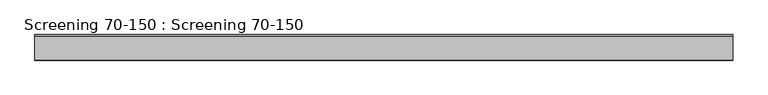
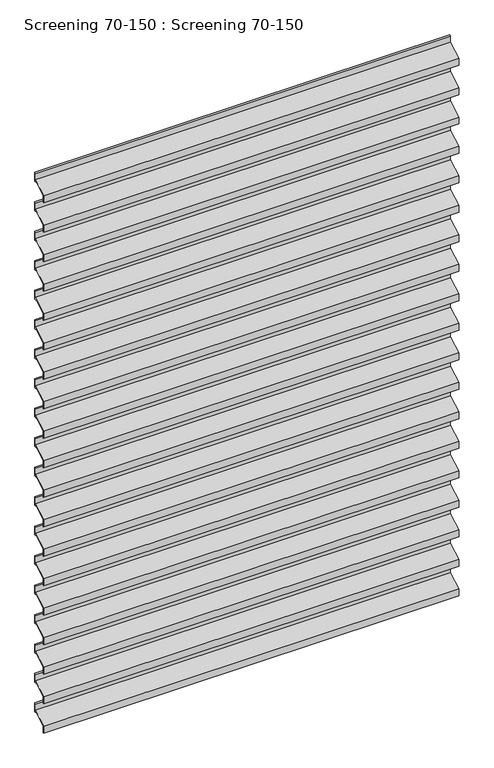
"""IFC4 building model written with IfcOpenShell, lengths in millimetres: plate geometry, Screening 70-150 : Screening 70-150."""

import ifcopenshell
import ifcopenshell.guid

model = None  # the IFC model being written
_history = None  # IfcOwnerHistory: only IFC2X3 demands one
_inside = {}  # id of a spatial element -> (the spatial element, [elements in it])
_under = {}  # id of a project, library or spatial element -> (it, [spatial elements below it])
_declared = {}  # id of a project -> (the project, [libraries it declares])
_typed = {}  # id of a type object -> (the type object, [elements of that type])
_made_of = {}  # id of a material, layer set ... -> (it, [elements and type objects made of it])


def new_model(schema):
    """Start an empty IFC model of exactly this schema.

    Asked for "IFC4X3", IfcOpenShell would pick the latest addendum, in which some entities
    have other attributes; the version numbers below select the first issue.
    IFC2X3 requires an IfcOwnerHistory on every rooted entity: one is made here for all.
    """
    global model, _history
    if schema == "IFC4X3":
        model = ifcopenshell.file(schema_version=(4, 3, 0, 0))
    else:
        model = ifcopenshell.file(schema=schema)
    _inside.clear()
    _under.clear()
    _declared.clear()
    _typed.clear()
    _made_of.clear()
    _history = None
    if model.schema == "IFC2X3":
        org = make("IfcOrganization", Name="unknown")
        user = make(
            "IfcPersonAndOrganization",
            ThePerson=make("IfcPerson", FamilyName="unknown"),
            TheOrganization=org,
        )
        app = make(
            "IfcApplication",
            ApplicationDeveloper=org,
            Version="unknown",
            ApplicationFullName="unknown",
            ApplicationIdentifier="unknown",
        )
        _history = make(
            "IfcOwnerHistory",
            OwningUser=user,
            OwningApplication=app,
            ChangeAction="ADDED",
            CreationDate=0,
        )
    return model


def make(cls, **values):
    """One entity of the class cls with the attributes given. An attribute that is None is left unset."""
    return model.create_entity(
        cls, **{name: value for name, value in values.items() if value is not None}
    )


def rooted(cls, **values):
    """An entity with a GlobalId (a new one), such as an element, a storey or a relation."""
    return make(cls, GlobalId=ifcopenshell.guid.new(), OwnerHistory=_history, **values)


def si_unit(unit_type, name, prefix=None):
    """IfcSIUnit, for example si_unit("LENGTHUNIT", "METRE", prefix="MILLI")."""
    return make("IfcSIUnit", UnitType=unit_type, Prefix=prefix, Name=name)


def assignment(units):
    """IfcUnitAssignment: the units of a project."""
    return None if units is None else make("IfcUnitAssignment", Units=units)


def point(xyz):
    """IfcCartesianPoint."""
    return None if xyz is None else make("IfcCartesianPoint", Coordinates=xyz)


def direction(xyz):
    """IfcDirection."""
    return None if xyz is None else make("IfcDirection", DirectionRatios=xyz)


def frame(location, z_axis=None, x_axis=None):
    """IfcAxis2Placement3D, a coordinate frame: its origin and axes. An axis left out is left unset."""
    return make(
        "IfcAxis2Placement3D",
        Location=point(location),
        Axis=direction(z_axis),
        RefDirection=direction(x_axis),
    )


def frame_2d(location, x_axis=None):
    """IfcAxis2Placement2D, a coordinate frame in the plane: its origin and x axis."""
    return make(
        "IfcAxis2Placement2D", Location=point(location), RefDirection=direction(x_axis)
    )


def origin():
    """The frame at (0, 0, 0) with its axes left unset."""
    return frame((0.0, 0.0, 0.0))


def place(relative_to, where):
    """IfcLocalPlacement: puts the frame where relative to a parent placement (None: the world)."""
    return make(
        "IfcLocalPlacement", PlacementRelTo=relative_to, RelativePlacement=where
    )


def context(
    kind, dimensions, precision=None, world=None, true_north=None, identifier=None
):
    """IfcGeometricRepresentationContext, for example the 3D "Model" context."""
    return make(
        "IfcGeometricRepresentationContext",
        ContextIdentifier=identifier,
        ContextType=kind,
        CoordinateSpaceDimension=dimensions,
        Precision=precision,
        WorldCoordinateSystem=world,
        TrueNorth=true_north,
    )


def project(units=None, contexts=None):
    """IfcProject with its units and contexts."""
    return rooted(
        "IfcProject",
        Name="project",
        RepresentationContexts=contexts,
        UnitsInContext=assignment(units),
    )


def spatial(cls, under=None, at=None, **own):
    """A site, building, storey or space (cls), placed at a placement, below another one or the project."""
    s = rooted(cls, ObjectPlacement=at, **own)
    if under is not None:
        _under.setdefault(under.id(), (under, []))[1].append(s)
    return s


def polyline(points):
    """IfcPolyline through the points."""
    return make("IfcPolyline", Points=[point(p) for p in points])


def circle_curve(where, radius):
    """IfcCircle in the frame where."""
    return make("IfcCircle", Position=where, Radius=radius)


def trimmed(basis, trim1, trim2, sense, master):
    """IfcTrimmedCurve: the piece of a basis curve between two trims."""
    return make(
        "IfcTrimmedCurve",
        BasisCurve=basis,
        Trim1=trim1,
        Trim2=trim2,
        SenseAgreement=sense,
        MasterRepresentation=master,
    )


def segment(curve, same_sense, transition):
    """IfcCompositeCurveSegment."""
    return make(
        "IfcCompositeCurveSegment",
        Transition=transition,
        SameSense=same_sense,
        ParentCurve=curve,
    )


def composite_curve(segments, self_intersect=None):
    """IfcCompositeCurve: segments joined end to end."""
    return make("IfcCompositeCurve", Segments=segments, SelfIntersect=self_intersect)


def outline(outer, holes=None, kind="AREA"):
    """IfcArbitraryClosedProfileDef: a profile drawn as a closed curve; with holes, ...WithVoids."""
    if holes is None:
        return make("IfcArbitraryClosedProfileDef", ProfileType=kind, OuterCurve=outer)
    return make(
        "IfcArbitraryProfileDefWithVoids",
        ProfileType=kind,
        OuterCurve=outer,
        InnerCurves=holes,
    )


def extrude(swept, where, along, depth):
    """IfcExtrudedAreaSolid: the profile swept, set in the frame where, extruded along a direction by depth."""
    return make(
        "IfcExtrudedAreaSolid",
        SweptArea=swept,
        Position=where,
        ExtrudedDirection=direction(along),
        Depth=depth,
    )


def shape(context_of_items, identifier, shape_type, items):
    """IfcShapeRepresentation: the items that make up one representation, for example the "Body"."""
    return make(
        "IfcShapeRepresentation",
        ContextOfItems=context_of_items,
        RepresentationIdentifier=identifier,
        RepresentationType=shape_type,
        Items=items,
    )


def source(mapping_origin, context_of_items, identifier, shape_type, items):
    """IfcRepresentationMap: a shape defined once, which mapped items show again and again."""
    return make(
        "IfcRepresentationMap",
        MappingOrigin=mapping_origin,
        MappedRepresentation=shape(context_of_items, identifier, shape_type, items),
    )


def transform(
    local_origin,
    x_axis=None,
    y_axis=None,
    z_axis=None,
    scale=None,
    scale2=None,
    scale3=None,
    uniform=True,
):
    """IfcCartesianTransformationOperator3D, or its non-uniform kind. x_axis, y_axis, z_axis: its Axis1, 2, 3."""
    if uniform:
        return make(
            "IfcCartesianTransformationOperator3D",
            Axis1=direction(x_axis),
            Axis2=direction(y_axis),
            LocalOrigin=point(local_origin),
            Scale=scale,
            Axis3=direction(z_axis),
        )
    return make(
        "IfcCartesianTransformationOperator3DnonUniform",
        Axis1=direction(x_axis),
        Axis2=direction(y_axis),
        LocalOrigin=point(local_origin),
        Scale=scale,
        Axis3=direction(z_axis),
        Scale2=scale2,
        Scale3=scale3,
    )


def mapped(mapping_source, mapping_target):
    """IfcMappedItem: shows the shape of a source again, moved by a transform."""
    return make(
        "IfcMappedItem", MappingSource=mapping_source, MappingTarget=mapping_target
    )


def made_of(thing, what):
    """Note that an element or type object is made of a material, layer set ...; save() writes the relation."""
    if what is not None:
        _made_of.setdefault(what.id(), (what, []))[1].append(thing)
    return thing


def element(
    cls,
    number,
    at=None,
    inside=None,
    cuts=None,
    type_object=None,
    material=None,
    context=None,
    identifier="Body",
    shape_type=None,
    held_by="IfcProductDefinitionShape",
    body=None,
    shapes=None,
    **own,
):
    """One element of the class cls, such as IfcWall. Its Tag is "e" and its number.

    at: its placement. inside: the storey or other place that contains it. cuts: it is an
    opening in that element (IfcRelVoidsElement). A single representation is given by context,
    identifier, shape_type and body (its items); several are given by shapes. held_by: the class
    of the entity that holds the representations. save() writes the other relations.
    """
    e = rooted(cls, Tag="e%d" % number, ObjectPlacement=at, **own)
    if body is not None:
        shapes = [shape(context, identifier, shape_type, body)]
    if shapes is not None:
        e.Representation = make(held_by, Representations=shapes)
    if inside is not None:
        _inside.setdefault(inside.id(), (inside, []))[1].append(e)
    if cuts is not None:
        rooted(
            "IfcRelVoidsElement", RelatingBuildingElement=cuts, RelatedOpeningElement=e
        )
    if type_object is not None:
        _typed.setdefault(type_object.id(), (type_object, []))[1].append(e)
    return made_of(e, material)


def aggregate(whole, parts):
    """IfcRelAggregates: a whole, such as a stair, and the parts it consists of."""
    return rooted("IfcRelAggregates", RelatingObject=whole, RelatedObjects=parts)


def save(model, path):
    """Write the relations noted so far, then the file.

    IfcRelAggregates (storeys below a building ...), IfcRelContainedInSpatialStructure (elements
    in a storey), IfcRelDefinesByType, IfcRelAssociatesMaterial and IfcRelDeclares: one each for
    every whole, place, type object, material and project.
    """
    for whole, parts in _under.values():
        aggregate(whole, parts)
    for where, things in _inside.values():
        rooted(
            "IfcRelContainedInSpatialStructure",
            RelatedElements=things,
            RelatingStructure=where,
        )
    for kind, things in _typed.values():
        rooted("IfcRelDefinesByType", RelatedObjects=things, RelatingType=kind)
    for what, things in _made_of.values():
        rooted("IfcRelAssociatesMaterial", RelatedObjects=things, RelatingMaterial=what)
    for by, libraries in _declared.values():
        rooted("IfcRelDeclares", RelatingContext=by, RelatedDefinitions=libraries)
    model.write(path)


def screening_70_150_screening_70_150_33caf40f(model_context):
    return source(origin(), model_context, "Body", "SweptSolid", [
        extrude(outline(composite_curve([segment(polyline([(-73.0, 2712.1), (-73.0, 2747.5291809)]), True, "CONTINUOUS"), segment(trimmed(circle_curve(frame_2d((-534.237547, 3626.0902569)), 992.2749816), [point((-73.0, 2747.5291809))], [point((-4.0, 2787.3663555))], True, "CARTESIAN"), True, "CONTINUOUS"), segment(polyline([(-4.0, 2787.3663555), (-4.0, 2818.009614), (0.0, 2821.1725089), (0.0, 2776.6482493), (-17.4871094, 2776.6482493)]), True, "CONTINUOUS"), segment(trimmed(circle_curve(frame_2d((-534.237547, 3626.0902569)), 994.2749816), [point((-17.4871094, 2776.6482493))], [point((-71.0, 2746.3211315))], False, "CARTESIAN"), True, "CONTINUOUS"), segment(polyline([(-71.0, 2746.3211315), (-71.0, 2712.1), (-73.0, 2712.1)]), True, "CONTINUOUS")], self_intersect=False)), frame((-1000.0, 0.0, 0.0), z_axis=(1.0, 0.0, 0.0), x_axis=(0.0, 1.0, 0.0)), (0.0, 0.0, 1.0), 2000.0),
        extrude(outline(composite_curve([segment(polyline([(-73.0, 2562.1), (-73.0, 2597.5291809)]), True, "CONTINUOUS"), segment(trimmed(circle_curve(frame_2d((-534.237547, 3476.0902569)), 992.2749816), [point((-73.0, 2597.5291809))], [point((-4.0, 2637.3663555))], True, "CARTESIAN"), True, "CONTINUOUS"), segment(polyline([(-4.0, 2637.3663555), (-4.0, 2668.009614), (0.0, 2671.1725089), (0.0, 2626.6482493), (-17.4871094, 2626.6482493)]), True, "CONTINUOUS"), segment(trimmed(circle_curve(frame_2d((-534.237547, 3476.0902569)), 994.2749816), [point((-17.4871094, 2626.6482493))], [point((-71.0, 2596.3211315))], False, "CARTESIAN"), True, "CONTINUOUS"), segment(polyline([(-71.0, 2596.3211315), (-71.0, 2562.1), (-73.0, 2562.1)]), True, "CONTINUOUS")], self_intersect=False)), frame((-1000.0, 0.0, 0.0), z_axis=(1.0, 0.0, 0.0), x_axis=(0.0, 1.0, 0.0)), (0.0, 0.0, 1.0), 2000.0),
        extrude(outline(composite_curve([segment(polyline([(-73.0, 2412.1), (-73.0, 2447.5291809)]), True, "CONTINUOUS"), segment(trimmed(circle_curve(frame_2d((-534.237547, 3326.0902569)), 992.2749816), [point((-73.0, 2447.5291809))], [point((-4.0, 2487.3663555))], True, "CARTESIAN"), True, "CONTINUOUS"), segment(polyline([(-4.0, 2487.3663555), (-4.0, 2518.009614), (0.0, 2521.1725089), (0.0, 2476.6482493), (-17.4871094, 2476.6482493)]), True, "CONTINUOUS"), segment(trimmed(circle_curve(frame_2d((-534.237547, 3326.0902569)), 994.2749816), [point((-17.4871094, 2476.6482493))], [point((-71.0, 2446.3211315))], False, "CARTESIAN"), True, "CONTINUOUS"), segment(polyline([(-71.0, 2446.3211315), (-71.0, 2412.1), (-73.0, 2412.1)]), True, "CONTINUOUS")], self_intersect=False)), frame((-1000.0, 0.0, 0.0), z_axis=(1.0, 0.0, 0.0), x_axis=(0.0, 1.0, 0.0)), (0.0, 0.0, 1.0), 2000.0),
        extrude(outline(composite_curve([segment(polyline([(-73.0, 2262.1), (-73.0, 2297.5291809)]), True, "CONTINUOUS"), segment(trimmed(circle_curve(frame_2d((-534.237547, 3176.0902569)), 992.2749816), [point((-73.0, 2297.5291809))], [point((-4.0, 2337.3663555))], True, "CARTESIAN"), True, "CONTINUOUS"), segment(polyline([(-4.0, 2337.3663555), (-4.0, 2368.009614), (0.0, 2371.1725089), (0.0, 2326.6482493), (-17.4871094, 2326.6482493)]), True, "CONTINUOUS"), segment(trimmed(circle_curve(frame_2d((-534.237547, 3176.0902569)), 994.2749816), [point((-17.4871094, 2326.6482493))], [point((-71.0, 2296.3211315))], False, "CARTESIAN"), True, "CONTINUOUS"), segment(polyline([(-71.0, 2296.3211315), (-71.0, 2262.1), (-73.0, 2262.1)]), True, "CONTINUOUS")], self_intersect=False)), frame((-1000.0, 0.0, 0.0), z_axis=(1.0, 0.0, 0.0), x_axis=(0.0, 1.0, 0.0)), (0.0, 0.0, 1.0), 2000.0),
        extrude(outline(composite_curve([segment(polyline([(-73.0, 2112.1), (-73.0, 2147.5291809)]), True, "CONTINUOUS"), segment(trimmed(circle_curve(frame_2d((-534.237547, 3026.0902569)), 992.2749816), [point((-73.0, 2147.5291809))], [point((-4.0, 2187.3663555))], True, "CARTESIAN"), True, "CONTINUOUS"), segment(polyline([(-4.0, 2187.3663555), (-4.0, 2218.009614), (0.0, 2221.1725089), (0.0, 2176.6482493), (-17.4871094, 2176.6482493)]), True, "CONTINUOUS"), segment(trimmed(circle_curve(frame_2d((-534.237547, 3026.0902569)), 994.2749816), [point((-17.4871094, 2176.6482493))], [point((-71.0, 2146.3211315))], False, "CARTESIAN"), True, "CONTINUOUS"), segment(polyline([(-71.0, 2146.3211315), (-71.0, 2112.1), (-73.0, 2112.1)]), True, "CONTINUOUS")], self_intersect=False)), frame((-1000.0, 0.0, 0.0), z_axis=(1.0, 0.0, 0.0), x_axis=(0.0, 1.0, 0.0)), (0.0, 0.0, 1.0), 2000.0),
        extrude(outline(composite_curve([segment(polyline([(-73.0, 1962.1), (-73.0, 1997.5291809)]), True, "CONTINUOUS"), segment(trimmed(circle_curve(frame_2d((-534.237547, 2876.0902569)), 992.2749816), [point((-73.0, 1997.5291809))], [point((-4.0, 2037.3663555))], True, "CARTESIAN"), True, "CONTINUOUS"), segment(polyline([(-4.0, 2037.3663555), (-4.0, 2068.009614), (0.0, 2071.1725089), (0.0, 2026.6482493), (-17.4871094, 2026.6482493)]), True, "CONTINUOUS"), segment(trimmed(circle_curve(frame_2d((-534.237547, 2876.0902569)), 994.2749816), [point((-17.4871094, 2026.6482493))], [point((-71.0, 1996.3211315))], False, "CARTESIAN"), True, "CONTINUOUS"), segment(polyline([(-71.0, 1996.3211315), (-71.0, 1962.1), (-73.0, 1962.1)]), True, "CONTINUOUS")], self_intersect=False)), frame((-1000.0, 0.0, 0.0), z_axis=(1.0, 0.0, 0.0), x_axis=(0.0, 1.0, 0.0)), (0.0, 0.0, 1.0), 2000.0),
        extrude(outline(composite_curve([segment(polyline([(-73.0, 1812.1), (-73.0, 1847.5291809)]), True, "CONTINUOUS"), segment(trimmed(circle_curve(frame_2d((-534.237547, 2726.0902569)), 992.2749816), [point((-73.0, 1847.5291809))], [point((-4.0, 1887.3663555))], True, "CARTESIAN"), True, "CONTINUOUS"), segment(polyline([(-4.0, 1887.3663555), (-4.0, 1918.009614), (0.0, 1921.1725089), (0.0, 1876.6482493), (-17.4871094, 1876.6482493)]), True, "CONTINUOUS"), segment(trimmed(circle_curve(frame_2d((-534.237547, 2726.0902569)), 994.2749816), [point((-17.4871094, 1876.6482493))], [point((-71.0, 1846.3211315))], False, "CARTESIAN"), True, "CONTINUOUS"), segment(polyline([(-71.0, 1846.3211315), (-71.0, 1812.1), (-73.0, 1812.1)]), True, "CONTINUOUS")], self_intersect=False)), frame((-1000.0, 0.0, 0.0), z_axis=(1.0, 0.0, 0.0), x_axis=(0.0, 1.0, 0.0)), (0.0, 0.0, 1.0), 2000.0),
        extrude(outline(composite_curve([segment(polyline([(-73.0, 1662.1), (-73.0, 1697.5291809)]), True, "CONTINUOUS"), segment(trimmed(circle_curve(frame_2d((-534.237547, 2576.0902569)), 992.2749816), [point((-73.0, 1697.5291809))], [point((-4.0, 1737.3663555))], True, "CARTESIAN"), True, "CONTINUOUS"), segment(polyline([(-4.0, 1737.3663555), (-4.0, 1768.009614), (0.0, 1771.1725089), (0.0, 1726.6482493), (-17.4871094, 1726.6482493)]), True, "CONTINUOUS"), segment(trimmed(circle_curve(frame_2d((-534.237547, 2576.0902569)), 994.2749816), [point((-17.4871094, 1726.6482493))], [point((-71.0, 1696.3211315))], False, "CARTESIAN"), True, "CONTINUOUS"), segment(polyline([(-71.0, 1696.3211315), (-71.0, 1662.1), (-73.0, 1662.1)]), True, "CONTINUOUS")], self_intersect=False)), frame((-1000.0, 0.0, 0.0), z_axis=(1.0, 0.0, 0.0), x_axis=(0.0, 1.0, 0.0)), (0.0, 0.0, 1.0), 2000.0),
        extrude(outline(composite_curve([segment(polyline([(-73.0, 1512.1), (-73.0, 1547.5291809)]), True, "CONTINUOUS"), segment(trimmed(circle_curve(frame_2d((-534.237547, 2426.0902569)), 992.2749816), [point((-73.0, 1547.5291809))], [point((-4.0, 1587.3663555))], True, "CARTESIAN"), True, "CONTINUOUS"), segment(polyline([(-4.0, 1587.3663555), (-4.0, 1618.009614), (0.0, 1621.1725089), (0.0, 1576.6482493), (-17.4871094, 1576.6482493)]), True, "CONTINUOUS"), segment(trimmed(circle_curve(frame_2d((-534.237547, 2426.0902569)), 994.2749816), [point((-17.4871094, 1576.6482493))], [point((-71.0, 1546.3211315))], False, "CARTESIAN"), True, "CONTINUOUS"), segment(polyline([(-71.0, 1546.3211315), (-71.0, 1512.1), (-73.0, 1512.1)]), True, "CONTINUOUS")], self_intersect=False)), frame((-1000.0, 0.0, 0.0), z_axis=(1.0, 0.0, 0.0), x_axis=(0.0, 1.0, 0.0)), (0.0, 0.0, 1.0), 2000.0),
        extrude(outline(composite_curve([segment(polyline([(-73.0, 1362.1), (-73.0, 1397.5291809)]), True, "CONTINUOUS"), segment(trimmed(circle_curve(frame_2d((-534.237547, 2276.0902569)), 992.2749816), [point((-73.0, 1397.5291809))], [point((-4.0, 1437.3663555))], True, "CARTESIAN"), True, "CONTINUOUS"), segment(polyline([(-4.0, 1437.3663555), (-4.0, 1468.009614), (0.0, 1471.1725089), (0.0, 1426.6482493), (-17.4871094, 1426.6482493)]), True, "CONTINUOUS"), segment(trimmed(circle_curve(frame_2d((-534.237547, 2276.0902569)), 994.2749816), [point((-17.4871094, 1426.6482493))], [point((-71.0, 1396.3211315))], False, "CARTESIAN"), True, "CONTINUOUS"), segment(polyline([(-71.0, 1396.3211315), (-71.0, 1362.1), (-73.0, 1362.1)]), True, "CONTINUOUS")], self_intersect=False)), frame((-1000.0, 0.0, 0.0), z_axis=(1.0, 0.0, 0.0), x_axis=(0.0, 1.0, 0.0)), (0.0, 0.0, 1.0), 2000.0),
        extrude(outline(composite_curve([segment(polyline([(-73.0, 1212.1), (-73.0, 1247.5291809)]), True, "CONTINUOUS"), segment(trimmed(circle_curve(frame_2d((-534.237547, 2126.0902569)), 992.2749816), [point((-73.0, 1247.5291809))], [point((-4.0, 1287.3663555))], True, "CARTESIAN"), True, "CONTINUOUS"), segment(polyline([(-4.0, 1287.3663555), (-4.0, 1318.009614), (0.0, 1321.1725089), (0.0, 1276.6482493), (-17.4871094, 1276.6482493)]), True, "CONTINUOUS"), segment(trimmed(circle_curve(frame_2d((-534.237547, 2126.0902569)), 994.2749816), [point((-17.4871094, 1276.6482493))], [point((-71.0, 1246.3211315))], False, "CARTESIAN"), True, "CONTINUOUS"), segment(polyline([(-71.0, 1246.3211315), (-71.0, 1212.1), (-73.0, 1212.1)]), True, "CONTINUOUS")], self_intersect=False)), frame((-1000.0, 0.0, 0.0), z_axis=(1.0, 0.0, 0.0), x_axis=(0.0, 1.0, 0.0)), (0.0, 0.0, 1.0), 2000.0),
        extrude(outline(composite_curve([segment(polyline([(-73.0, 1062.1), (-73.0, 1097.5291809)]), True, "CONTINUOUS"), segment(trimmed(circle_curve(frame_2d((-534.237547, 1976.0902569)), 992.2749816), [point((-73.0, 1097.5291809))], [point((-4.0, 1137.3663555))], True, "CARTESIAN"), True, "CONTINUOUS"), segment(polyline([(-4.0, 1137.3663555), (-4.0, 1168.009614), (0.0, 1171.1725089), (0.0, 1126.6482493), (-17.4871094, 1126.6482493)]), True, "CONTINUOUS"), segment(trimmed(circle_curve(frame_2d((-534.237547, 1976.0902569)), 994.2749816), [point((-17.4871094, 1126.6482493))], [point((-71.0, 1096.3211315))], False, "CARTESIAN"), True, "CONTINUOUS"), segment(polyline([(-71.0, 1096.3211315), (-71.0, 1062.1), (-73.0, 1062.1)]), True, "CONTINUOUS")], self_intersect=False)), frame((-1000.0, 0.0, 0.0), z_axis=(1.0, 0.0, 0.0), x_axis=(0.0, 1.0, 0.0)), (0.0, 0.0, 1.0), 2000.0),
        extrude(outline(composite_curve([segment(polyline([(-73.0, 912.1), (-73.0, 947.5291809)]), True, "CONTINUOUS"), segment(trimmed(circle_curve(frame_2d((-534.237547, 1826.0902569)), 992.2749816), [point((-73.0, 947.5291809))], [point((-4.0, 987.3663555))], True, "CARTESIAN"), True, "CONTINUOUS"), segment(polyline([(-4.0, 987.3663555), (-4.0, 1018.009614), (0.0, 1021.1725089), (0.0, 976.6482493), (-17.4871094, 976.6482493)]), True, "CONTINUOUS"), segment(trimmed(circle_curve(frame_2d((-534.237547, 1826.0902569)), 994.2749816), [point((-17.4871094, 976.6482493))], [point((-71.0, 946.3211315))], False, "CARTESIAN"), True, "CONTINUOUS"), segment(polyline([(-71.0, 946.3211315), (-71.0, 912.1), (-73.0, 912.1)]), True, "CONTINUOUS")], self_intersect=False)), frame((-1000.0, 0.0, 0.0), z_axis=(1.0, 0.0, 0.0), x_axis=(0.0, 1.0, 0.0)), (0.0, 0.0, 1.0), 2000.0),
        extrude(outline(composite_curve([segment(polyline([(-73.0, 762.1), (-73.0, 797.5291809)]), True, "CONTINUOUS"), segment(trimmed(circle_curve(frame_2d((-534.237547, 1676.0902569)), 992.2749816), [point((-73.0, 797.5291809))], [point((-4.0, 837.3663555))], True, "CARTESIAN"), True, "CONTINUOUS"), segment(polyline([(-4.0, 837.3663555), (-4.0, 868.009614), (0.0, 871.1725089), (0.0, 826.6482493), (-17.4871094, 826.6482493)]), True, "CONTINUOUS"), segment(trimmed(circle_curve(frame_2d((-534.237547, 1676.0902569)), 994.2749816), [point((-17.4871094, 826.6482493))], [point((-71.0, 796.3211315))], False, "CARTESIAN"), True, "CONTINUOUS"), segment(polyline([(-71.0, 796.3211315), (-71.0, 762.1), (-73.0, 762.1)]), True, "CONTINUOUS")], self_intersect=False)), frame((-1000.0, 0.0, 0.0), z_axis=(1.0, 0.0, 0.0), x_axis=(0.0, 1.0, 0.0)), (0.0, 0.0, 1.0), 2000.0),
        extrude(outline(composite_curve([segment(polyline([(-73.0, 612.1), (-73.0, 647.5291809)]), True, "CONTINUOUS"), segment(trimmed(circle_curve(frame_2d((-534.237547, 1526.0902569)), 992.2749816), [point((-73.0, 647.5291809))], [point((-4.0, 687.3663555))], True, "CARTESIAN"), True, "CONTINUOUS"), segment(polyline([(-4.0, 687.3663555), (-4.0, 718.009614), (0.0, 721.1725089), (0.0, 676.6482493), (-17.4871094, 676.6482493)]), True, "CONTINUOUS"), segment(trimmed(circle_curve(frame_2d((-534.237547, 1526.0902569)), 994.2749816), [point((-17.4871094, 676.6482493))], [point((-71.0, 646.3211315))], False, "CARTESIAN"), True, "CONTINUOUS"), segment(polyline([(-71.0, 646.3211315), (-71.0, 612.1), (-73.0, 612.1)]), True, "CONTINUOUS")], self_intersect=False)), frame((-1000.0, 0.0, 0.0), z_axis=(1.0, 0.0, 0.0), x_axis=(0.0, 1.0, 0.0)), (0.0, 0.0, 1.0), 2000.0),
        extrude(outline(composite_curve([segment(polyline([(-73.0, 462.1), (-73.0, 497.5291809)]), True, "CONTINUOUS"), segment(trimmed(circle_curve(frame_2d((-534.237547, 1376.0902569)), 992.2749816), [point((-73.0, 497.5291809))], [point((-4.0, 537.3663555))], True, "CARTESIAN"), True, "CONTINUOUS"), segment(polyline([(-4.0, 537.3663555), (-4.0, 568.009614), (0.0, 571.1725089), (0.0, 526.6482493), (-17.4871094, 526.6482493)]), True, "CONTINUOUS"), segment(trimmed(circle_curve(frame_2d((-534.237547, 1376.0902569)), 994.2749816), [point((-17.4871094, 526.6482493))], [point((-71.0, 496.3211315))], False, "CARTESIAN"), True, "CONTINUOUS"), segment(polyline([(-71.0, 496.3211315), (-71.0, 462.1), (-73.0, 462.1)]), True, "CONTINUOUS")], self_intersect=False)), frame((-1000.0, 0.0, 0.0), z_axis=(1.0, 0.0, 0.0), x_axis=(0.0, 1.0, 0.0)), (0.0, 0.0, 1.0), 2000.0),
        extrude(outline(composite_curve([segment(polyline([(-73.0, 312.1), (-73.0, 347.5291809)]), True, "CONTINUOUS"), segment(trimmed(circle_curve(frame_2d((-534.237547, 1226.0902569)), 992.2749816), [point((-73.0, 347.5291809))], [point((-4.0, 387.3663555))], True, "CARTESIAN"), True, "CONTINUOUS"), segment(polyline([(-4.0, 387.3663555), (-4.0, 418.009614), (0.0, 421.1725089), (0.0, 376.6482493), (-17.4871094, 376.6482493)]), True, "CONTINUOUS"), segment(trimmed(circle_curve(frame_2d((-534.237547, 1226.0902569)), 994.2749816), [point((-17.4871094, 376.6482493))], [point((-71.0, 346.3211315))], False, "CARTESIAN"), True, "CONTINUOUS"), segment(polyline([(-71.0, 346.3211315), (-71.0, 312.1), (-73.0, 312.1)]), True, "CONTINUOUS")], self_intersect=False)), frame((-1000.0, 0.0, 0.0), z_axis=(1.0, 0.0, 0.0), x_axis=(0.0, 1.0, 0.0)), (0.0, 0.0, 1.0), 2000.0),
        extrude(outline(composite_curve([segment(polyline([(-73.0, 162.1), (-73.0, 197.5291809)]), True, "CONTINUOUS"), segment(trimmed(circle_curve(frame_2d((-534.237547, 1076.0902569)), 992.2749816), [point((-73.0, 197.5291809))], [point((-4.0, 237.3663555))], True, "CARTESIAN"), True, "CONTINUOUS"), segment(polyline([(-4.0, 237.3663555), (-4.0, 268.009614), (0.0, 271.1725089), (0.0, 226.6482493), (-17.4871094, 226.6482493)]), True, "CONTINUOUS"), segment(trimmed(circle_curve(frame_2d((-534.237547, 1076.0902569)), 994.2749816), [point((-17.4871094, 226.6482493))], [point((-71.0, 196.3211315))], False, "CARTESIAN"), True, "CONTINUOUS"), segment(polyline([(-71.0, 196.3211315), (-71.0, 162.1), (-73.0, 162.1)]), True, "CONTINUOUS")], self_intersect=False)), frame((-1000.0, 0.0, 0.0), z_axis=(1.0, 0.0, 0.0), x_axis=(0.0, 1.0, 0.0)), (0.0, 0.0, 1.0), 2000.0),
        extrude(outline(composite_curve([segment(polyline([(-73.0, 12.1), (-73.0, 47.5291809)]), True, "CONTINUOUS"), segment(trimmed(circle_curve(frame_2d((-534.237547, 926.0902569)), 992.2749816), [point((-73.0, 47.5291809))], [point((-4.0, 87.3663555))], True, "CARTESIAN"), True, "CONTINUOUS"), segment(polyline([(-4.0, 87.3663555), (-4.0, 118.009614), (0.0, 121.1725089), (0.0, 76.6482493), (-17.4871094, 76.6482493)]), True, "CONTINUOUS"), segment(trimmed(circle_curve(frame_2d((-534.237547, 926.0902569)), 994.2749816), [point((-17.4871094, 76.6482493))], [point((-71.0, 46.3211315))], False, "CARTESIAN"), True, "CONTINUOUS"), segment(polyline([(-71.0, 46.3211315), (-71.0, 12.1), (-73.0, 12.1)]), True, "CONTINUOUS")], self_intersect=False)), frame((-1000.0, 0.0, 0.0), z_axis=(1.0, 0.0, 0.0), x_axis=(0.0, 1.0, 0.0)), (0.0, 0.0, 1.0), 2000.0),
    ])


if __name__ == "__main__":
    model = new_model("IFC4")
    model_context = context("Model", 3, world=origin())
    ifc_project = project(units=[si_unit("LENGTHUNIT", "METRE", prefix="MILLI")], contexts=[model_context])
    site = spatial("IfcSite", under=ifc_project)
    building = spatial("IfcBuilding", under=site)
    placement = place(None, origin())
    screening_70_150_screening_70_150_shape = screening_70_150_screening_70_150_33caf40f(model_context)
    element("IfcPlate", 1, ObjectType="Screening 70-150 : Screening 70-150", at=placement, inside=building, context=model_context, shape_type="MappedRepresentation", body=[
        mapped(screening_70_150_screening_70_150_shape, transform((0.0, 0.0, 0.0), x_axis=(1.0, 0.0, 0.0), y_axis=(0.0, 1.0, 0.0), z_axis=(0.0, 0.0, 1.0))),
    ])
    save(model, "model.ifc")
